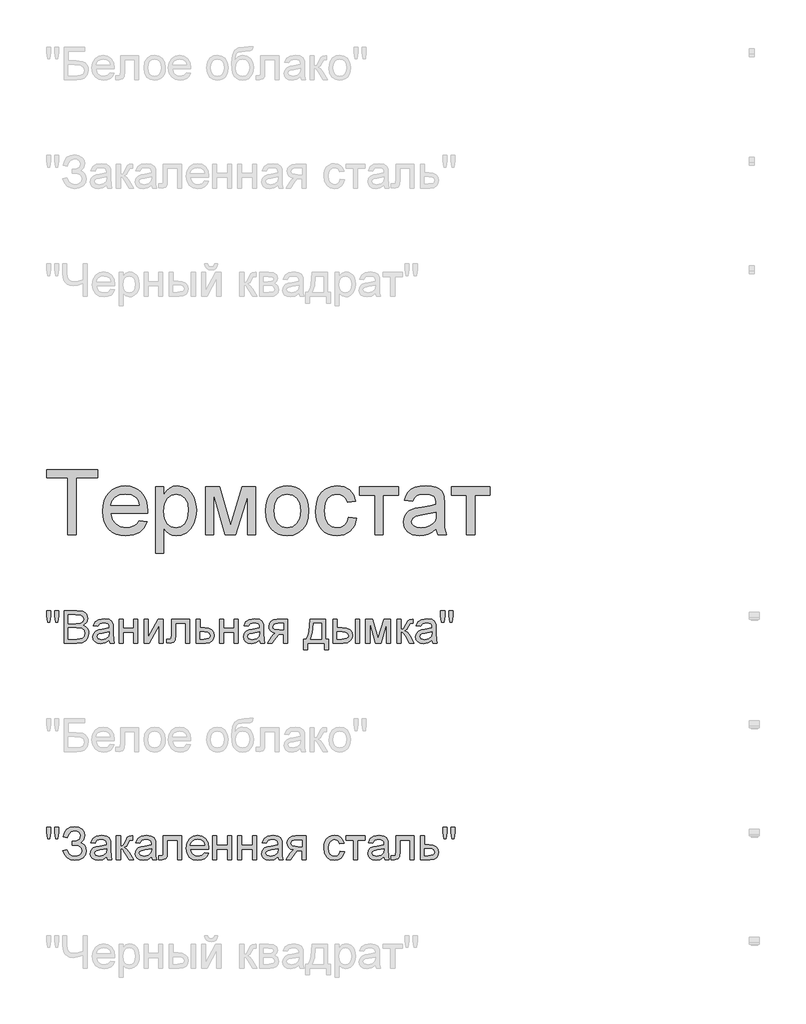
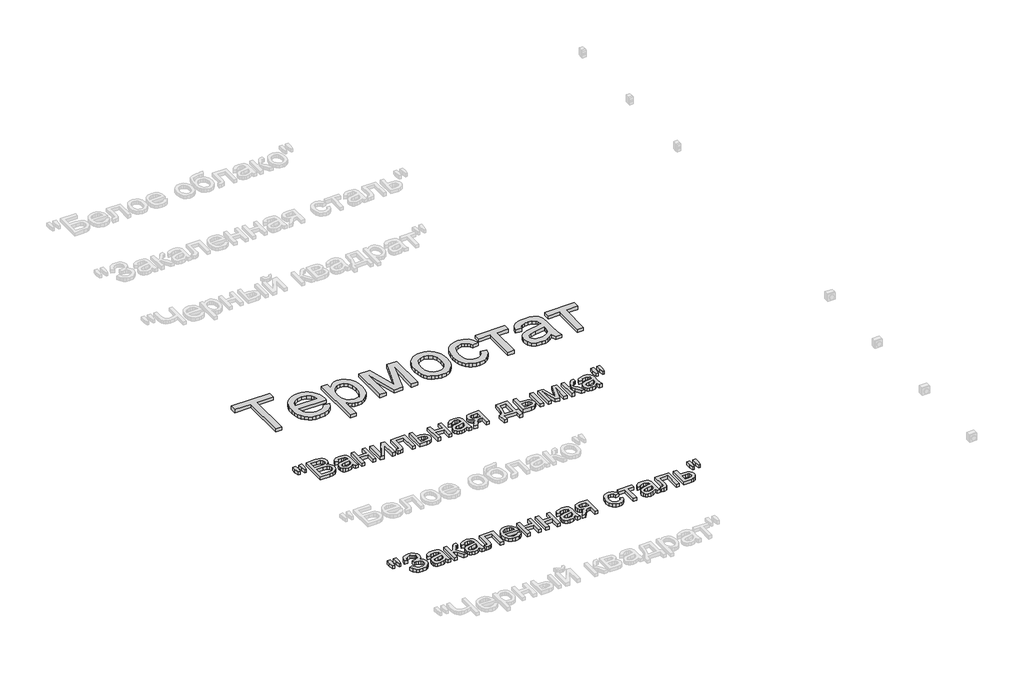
# One storey, part 12 of 168: 3 proxies.
"""IFC4 building model written with IfcOpenShell, lengths in millimetres."""

from ifc_helpers import new_model, si_unit, origin, origin_with_axes, place, context, project, spatial, polyline, outline, extrude, element, save

model = new_model("IFC4")

# Units and contexts
model_context = context("Model", 3, world=origin())
ifc_project = project(units=[si_unit("LENGTHUNIT", "METRE", prefix="MILLI")], contexts=[model_context])

# Site, building, storey
site = spatial("IfcSite", under=ifc_project)
building = spatial("IfcBuilding", under=site)
storey = spatial("IfcBuildingStorey", under=building, Name="Этаж 01", Elevation=0.0)

# Proxies
placement = place(None, origin())
element("IfcBuildingElementProxy", 1, Name="300 мм Arial 2", ObjectType="300 мм Arial 2", at=placement, inside=storey, context=model_context, shape_type="SweptSolid", body=[
    extrude(outline(polyline([(32974.4367343, -53165.7934012), (32974.4367343, -52902.095587), (32875.550054, -52902.095587), (32875.550054, -52864.4244707), (33110.9945309, -52864.4244707), (33110.9945309, -52902.095587), (33012.1078506, -52902.095587), (33012.1078506, -53165.7934012), (32974.4367343, -53165.7934012)])), origin_with_axes(), (0.0, 0.0, 1.0), 20.0),
    extrude(outline(polyline([(33303.6175436, -53099.8689477), (33340.5528959, -53104.5778372), (33327.2447647, -53132.4081101), (33306.0087765, -53153.211837), (33277.3231779, -53166.1796773), (33241.6662156, -53170.5022907), (33218.2919133, -53168.6375889), (33197.4651938, -53163.0434833), (33179.1860572, -53153.719974), (33163.4545034, -53140.6670609), (33150.8039613, -53124.2480276), (33141.7678598, -53104.8261575), (33136.3461989, -53082.4014507), (33134.5389786, -53056.973907), (33136.364593, -53030.6841399), (33141.8414362, -53007.5121728), (33150.9695082, -52987.4580055), (33163.748809, -52970.5216382), (33179.4389761, -52957.0663542), (33197.2996469, -52947.4554371), (33217.3308216, -52941.6888868), (33239.5325, -52939.7667034), (33261.0191078, -52941.6842883), (33280.4501749, -52947.437043), (33297.8257014, -52957.0249675), (33313.1456872, -52970.4480618), (33325.6513758, -52987.3476409), (33334.5840105, -53007.36502), (33339.9435913, -53030.5001989), (33341.7301183, -53056.7531778), (33341.5093891, -53066.9067209), (33172.2100949, -53066.9067209), (33178.7308032, -53095.1048758), (33193.8783444, -53115.8350262), (33215.739732, -53128.5821374), (33242.4019796, -53132.8311744), (33262.4515483, -53130.8630057), (33279.3373319, -53124.9584997), (33293.0593303, -53114.7497744), (33303.6175436, -53099.8689477)]), holes=[polyline([(33172.2100949, -53029.2356046), (33304.0590019, -53029.2356046), (33298.9638363, -53009.3331886), (33288.9758401, -52995.0961554), (33267.013285, -52981.8524036), (33239.3853472, -52977.4378197), (33213.9922925, -52980.9602898), (33192.9954276, -52991.5277001), (33178.3997094, -53007.9996164), (33172.2100949, -53029.2356046)])]), origin_with_axes(), (0.0, 0.0, 1.0), 20.0),
    extrude(outline(polyline([(33379.4012346, -53250.5534129), (33379.4012346, -52944.4755929), (33417.0723509, -52944.4755929), (33417.0723509, -52981.4109452), (33429.3596095, -52963.1915894), (33443.1183961, -52950.1777638), (33459.1580511, -52942.3694685), (33478.2879149, -52939.7667034), (33503.763743, -52943.4087351), (33526.0389978, -52954.3348304), (33544.1755802, -52971.8828015), (33557.235391, -52995.390461), (33565.1264598, -53023.1471576), (33567.7568161, -53053.4422399), (33564.786169, -53085.6595056), (33555.8742276, -53114.4738629), (33541.3061006, -53138.4229807), (33521.3668965, -53156.0445283), (33498.1443456, -53166.8878501), (33473.7261781, -53170.5022907), (33456.4081332, -53168.0834666), (33440.9478924, -53160.8269943), (33427.7133376, -53149.8733078), (33417.0723509, -53136.3628416), (33417.0723509, -53250.5534129), (33379.4012346, -53250.5534129)]), holes=[polyline([(33417.0723509, -53056.9003306), (33421.146644, -53090.6718978), (33433.3695233, -53114.2899219), (33451.4049381, -53128.1958613), (33472.9168377, -53132.8311744), (33494.7782253, -53128.0303144), (33513.2734926, -53113.6277343), (33525.882648, -53089.1451875), (33530.0856998, -53054.1044275), (33525.9838155, -53020.5168013), (33513.6781628, -52996.5676834), (33495.6703391, -52982.2202856), (33474.4619421, -52977.4378197), (33453.1707716, -52982.5237882), (33434.4731692, -52997.781694), (33421.4225555, -53022.7332903), (33417.0723509, -53056.9003306)])]), origin_with_axes(), (0.0, 0.0, 1.0), 20.0),
    extrude(outline(polyline([(33610.1368219, -52944.4755929), (33674.9576295, -52944.4755929), (33724.9160044, -53121.6475618), (33778.7739285, -52944.4755929), (33840.8724093, -52944.4755929), (33840.8724093, -53165.7934012), (33803.201293, -53165.7934012), (33803.201293, -52987.5913627), (33749.0490633, -53165.7934012), (33699.6057232, -53165.7934012), (33647.8079382, -52979.0565004), (33647.8079382, -53165.7934012), (33610.1368219, -53165.7934012), (33610.1368219, -52944.4755929)])), origin_with_axes(), (0.0, 0.0, 1.0), 20.0),
    extrude(outline(polyline([(33887.9613047, -53055.134497), (33889.9984512, -53026.4718911), (33896.1098909, -53001.7732136), (33906.2956236, -52981.0384647), (33920.5556495, -52964.2676442), (33934.9122443, -52953.5484826), (33950.7587613, -52945.8919386), (33968.0952003, -52941.2980122), (33986.9215614, -52939.7667034), (34007.7045949, -52941.6314052), (34026.496467, -52947.2255108), (34043.2971779, -52956.5490201), (34058.1067275, -52969.6019332), (34070.1939503, -52985.9427915), (34078.8276808, -53005.1301368), (34084.0079192, -53027.1639691), (34085.7346653, -53052.0442883), (34082.6812447, -53090.1016807), (34073.5209831, -53119.0723878), (34058.5205947, -53140.7682285), (34037.9467941, -53157.0010215), (34013.5102326, -53167.1269734), (33986.9215614, -53170.5022907), (33965.8350253, -53168.6444867), (33946.8684092, -53163.0710744), (33930.0217131, -53153.782054), (33915.2949369, -53140.7774255), (33903.3364728, -53124.277918), (33894.7947128, -53104.5042608), (33889.6696567, -53081.4564538), (33887.9613047, -53055.134497)]), holes=[polyline([(33925.632421, -53055.0609206), (33929.9918226, -53089.1543845), (33943.0700276, -53113.4437933), (33962.7517143, -53127.9843291), (33986.9215614, -53132.8311744), (34010.9810439, -53127.956738), (34030.6259424, -53113.3334287), (34043.7041474, -53088.7221232), (34048.063549, -53053.8836983), (34043.6765562, -53020.7835157), (34030.5155778, -52996.8252008), (34010.8430881, -52982.2846649), (33986.9215614, -52977.4378197), (33962.7517143, -52982.2662708), (33943.0700276, -52996.7516244), (33929.9918226, -53020.9858508), (33925.632421, -53055.0609206)])]), origin_with_axes(), (0.0, 0.0, 1.0), 20.0),
    extrude(outline(polyline([(34269.3813573, -53085.742279), (34307.0524736, -53090.4511686), (34296.5494426, -53123.9560213), (34276.8125736, -53149.2754996), (34249.6996706, -53165.1955929), (34217.0685376, -53170.5022907), (34195.9406147, -53168.6513844), (34176.9969913, -53163.0986656), (34160.2376671, -53153.8441341), (34145.6626423, -53140.8877901), (34133.8651266, -53124.4733553), (34125.4383296, -53104.8445516), (34120.3822515, -53082.001379), (34118.6968921, -53055.9438374), (34121.5755687, -53022.4205906), (34130.2115985, -52993.3671101), (34144.7429373, -52969.9054358), (34165.3075409, -52953.157608), (34189.9096493, -52943.1144295), (34216.5535028, -52939.7667034), (34248.3844924, -52944.3652283), (34273.8327294, -52958.1608031), (34292.0888734, -52980.4176638), (34302.3435841, -53010.4000464), (34264.6724678, -53015.108936), (34257.8390597, -52998.6738078), (34247.198073, -52986.8923869), (34233.3381188, -52979.8014615), (34216.8478084, -52977.4378197), (34192.5032174, -52982.0915269), (34173.1802156, -52996.0526486), (34160.5710602, -53020.0753429), (34156.3680084, -53054.9137678), (34160.4790897, -53090.2212423), (34172.8123336, -53114.3267101), (34191.7858475, -53128.2050583), (34215.8177388, -53132.8311744), (34235.3246816, -53129.9433008), (34251.3183513, -53121.2796798), (34262.9526194, -53106.6195823), (34269.3813573, -53085.742279)])), origin_with_axes(), (0.0, 0.0, 1.0), 20.0),
    extrude(outline(polyline([(34321.1791422, -52944.4755929), (34500.1169447, -52944.4755929), (34500.1169447, -52982.1467092), (34429.4836016, -52982.1467092), (34429.4836016, -53165.7934012), (34391.8124853, -53165.7934012), (34391.8124853, -52982.1467092), (34321.1791422, -52982.1467092), (34321.1791422, -52944.4755929)])), origin_with_axes(), (0.0, 0.0, 1.0), 20.0),
    extrude(outline(polyline([(34674.3458576, -53137.540064), (34656.347231, -53152.9727137), (34637.8151755, -53163.0710744), (34618.3266268, -53168.6444867), (34597.4585206, -53170.5022907), (34565.9770189, -53166.0325245), (34542.7544679, -53152.6232258), (34528.4346612, -53132.2609573), (34523.6613924, -53106.932282), (34525.4640141, -53091.3156913), (34530.8718795, -53077.1338404), (34539.2136037, -53064.9937345), (34549.8178022, -53055.502379), (34576.1949413, -53043.141544), (34608.789286, -53037.4761613), (34647.3065309, -53031.516473), (34674.1251284, -53024.526715), (34674.3458576, -53016.1390056), (34671.7522895, -52999.3267984), (34663.9715853, -52988.3271267), (34646.5707669, -52980.1601464), (34622.3273435, -52977.4378197), (34599.8865418, -52979.2496385), (34584.2147688, -52984.685095), (34573.5277968, -52994.7374705), (34566.0413982, -53010.4000464), (34528.3702819, -53005.6911569), (34534.9093844, -52985.0897652), (34544.6674543, -52968.9029574), (34558.5549996, -52956.5237282), (34577.4825283, -52947.3450725), (34600.6315028, -52941.6612956), (34627.1833858, -52939.7667034), (34652.6500169, -52941.4405664), (34672.8375414, -52946.4621557), (34688.058659, -52954.0129336), (34698.6260693, -52963.2743628), (34705.6342213, -52974.7246899), (34710.1775639, -52988.8421615), (34712.0169739, -53021.8043883), (34712.0169739, -53068.6725545), (34713.9299603, -53134.1187614), (34721.434753, -53165.7934012), (34683.7636367, -53165.7934012), (34674.3458576, -53137.540064)]), holes=[polyline([(34674.3458576, -53062.1978313), (34613.571752, -53073.749326), (34581.1613482, -53079.8561671), (34566.4828566, -53089.788981), (34561.3325087, -53104.2835316), (34564.1376089, -53115.4855383), (34572.5529095, -53124.6641941), (34586.3944696, -53130.7894293), (34605.4783481, -53132.8311744), (34625.7118578, -53130.5778972), (34643.5909228, -53123.8180655), (34658.0854734, -53113.8576605), (34668.1654401, -53102.0026632), (34672.6352063, -53089.788981), (34674.1251284, -53072.8664092), (34674.3458576, -53062.1978313)])]), origin_with_axes(), (0.0, 0.0, 1.0), 20.0),
    extrude(outline(polyline([(34744.9792007, -52944.4755929), (34923.9170031, -52944.4755929), (34923.9170031, -52982.1467092), (34853.28366, -52982.1467092), (34853.28366, -53165.7934012), (34815.6125437, -53165.7934012), (34815.6125437, -52982.1467092), (34744.9792007, -52982.1467092), (34744.9792007, -52944.4755929)])), origin_with_axes(), (0.0, 0.0, 1.0), 20.0),
])
element("IfcBuildingElementProxy", 2, Name="150", ObjectType="150", at=placement, inside=storey, context=model_context, shape_type="SweptSolid", body=[
    extrude(outline(polyline([(32880.1485789, -53569.2611657), (32875.550054, -53540.1616998), (32875.550054, -53515.108936), (32894.3856121, -53515.108936), (32894.3856121, -53540.1616998), (32890.2653338, -53569.2611657), (32880.1485789, -53569.2611657)])), origin_with_axes(), (0.0, 0.0, 1.0), 20.0),
    extrude(outline(polyline([(32917.7093306, -53569.2611657), (32913.2211703, -53540.1616998), (32913.2211703, -53515.108936), (32932.0567284, -53515.108936), (32932.0567284, -53540.1616998), (32927.6421445, -53569.2611657), (32917.7093306, -53569.2611657)])), origin_with_axes(), (0.0, 0.0, 1.0), 20.0),
    extrude(outline(polyline([(32957.9556209, -53665.7934012), (32957.9556209, -53515.108936), (33015.4555767, -53515.108936), (33043.6169435, -53519.541914), (33053.0807078, -53525.16591), (33060.2452096, -53533.1719419), (33066.2600803, -53552.4489585), (33061.2017028, -53570.0521119), (33045.9162059, -53583.3878343), (33056.5893823, -53588.9612465), (33064.4758526, -53597.4409265), (33069.3456905, -53608.2658542), (33070.9689698, -53620.8750096), (33066.5359918, -53641.1269134), (33055.5547142, -53655.5478876), (33039.1655713, -53663.1998331), (33015.0141183, -53665.7934012), (32957.9556209, -53665.7934012)]), holes=[polyline([(32976.791179, -53576.3245), (33011.1881456, -53576.3245), (33031.2745025, -53574.7058192), (33043.3594261, -53567.7344554), (33047.4245221, -53555.4655908), (33043.6353376, -53543.1783322), (33032.7828187, -53535.9126628), (33008.5761834, -53533.9444941), (32976.791179, -53533.9444941), (32976.791179, -53576.3245)]), polyline([(32976.791179, -53646.957843), (33015.4187885, -53646.957843), (33029.3983043, -53646.222079), (33041.2257105, -53642.1201948), (33049.061597, -53633.7508794), (33052.1334117, -53621.0589506), (33048.5281681, -53606.4172472), (33036.8479148, -53597.6800498), (33013.5793786, -53595.1600581), (32976.791179, -53595.1600581), (32976.791179, -53646.957843)])]), origin_with_axes(), (0.0, 0.0, 1.0), 20.0),
    extrude(outline(polyline([(33165.1467606, -53651.6667326), (33146.8814195, -53664.4322378), (33126.7030921, -53668.147846), (33110.9623412, -53665.9129628), (33099.3510657, -53659.2083135), (33092.1911624, -53649.0271793), (33089.804528, -53636.3628416), (33093.4097715, -53621.4636208), (33102.8827329, -53610.6478901), (33116.0713024, -53604.4674726), (33132.3684748, -53601.6347812), (33165.036396, -53595.1600581), (33165.1467606, -53590.9662034), (33163.8499765, -53582.5600998), (33159.9596244, -53577.060264), (33151.2592153, -53572.9767738), (33139.1375035, -53571.6156104), (33120.0812162, -53575.2392481), (33110.9945309, -53588.0967238), (33092.1589727, -53585.742279), (33100.3075589, -53567.3481793), (33116.7150959, -53556.5692368), (33141.5655247, -53552.7800523), (33164.3926025, -53556.1277784), (33177.2868664, -53564.533882), (33183.0626137, -53577.3177814), (33183.9823187, -53593.7988947), (33183.9823187, -53617.2329778), (33184.9388119, -53649.9560813), (33188.6912083, -53665.7934012), (33169.8556501, -53665.7934012), (33165.1467606, -53651.6667326)]), holes=[polyline([(33165.1467606, -53613.9956163), (33134.7597078, -53619.7713636), (33118.5545059, -53622.8247842), (33111.2152601, -53627.7911911), (33108.6400861, -53635.0384664), (33114.2502865, -53645.2287977), (33130.7130058, -53649.3122878), (33149.7692932, -53644.8057334), (33162.0565518, -53633.8980322), (33165.036396, -53619.3299052), (33165.1467606, -53613.9956163)])]), origin_with_axes(), (0.0, 0.0, 1.0), 20.0),
    extrude(outline(polyline([(33209.8812112, -53555.134497), (33228.7167693, -53555.134497), (33228.7167693, -53597.5145029), (33278.1601095, -53597.5145029), (33278.1601095, -53555.134497), (33296.9956676, -53555.134497), (33296.9956676, -53665.7934012), (33278.1601095, -53665.7934012), (33278.1601095, -53616.350061), (33228.7167693, -53616.350061), (33228.7167693, -53665.7934012), (33209.8812112, -53665.7934012), (33209.8812112, -53555.134497)])), origin_with_axes(), (0.0, 0.0, 1.0), 20.0),
    extrude(outline(polyline([(33325.2490049, -53555.134497), (33344.084563, -53555.134497), (33344.084563, -53639.5266267), (33390.364118, -53555.134497), (33414.7179061, -53555.134497), (33414.7179061, -53665.7934012), (33395.8823479, -53665.7934012), (33395.8823479, -53581.9163063), (33349.8970985, -53665.7934012), (33325.2490049, -53665.7934012), (33325.2490049, -53555.134497)])), origin_with_axes(), (0.0, 0.0, 1.0), 20.0),
    extrude(outline(polyline([(33452.3890224, -53555.134497), (33537.1490341, -53555.134497), (33537.1490341, -53665.6830366), (33518.3134759, -53665.6830366), (33518.3134759, -53573.9700552), (33471.2245806, -53573.9700552), (33471.2245806, -53626.7611215), (33469.9553877, -53651.1149096), (33462.9840239, -53661.3972113), (33446.5029105, -53665.7934012), (33431.1990195, -53664.836908), (33431.1990195, -53646.957843), (33439.6235172, -53646.957843), (33448.1399854, -53645.7990148), (33451.5428938, -53642.1201948), (33452.3890224, -53625.6942637), (33452.3890224, -53555.134497)])), origin_with_axes(), (0.0, 0.0, 1.0), 20.0),
    extrude(outline(polyline([(33565.4023713, -53555.134497), (33584.2379295, -53555.134497), (33584.2379295, -53595.1600581), (33605.9429672, -53595.1600581), (33624.7601312, -53597.5191014), (33638.6844648, -53604.5962313), (33647.2929034, -53615.8212307), (33650.162383, -53630.6238825), (33647.7205663, -53644.102159), (33640.395116, -53655.4743112), (33627.6985887, -53663.2136287), (33609.1435405, -53665.7934012), (33565.4023713, -53665.7934012), (33565.4023713, -53555.134497)]), holes=[polyline([(33584.2379295, -53646.957843), (33601.8226888, -53646.957843), (33624.539402, -53643.0031116), (33629.6299692, -53637.9401356), (33631.3268249, -53630.6606707), (33626.3052356, -53619.0723878), (33618.2348244, -53615.2648092), (33604.066769, -53613.9956163), (33584.2379295, -53613.9956163), (33584.2379295, -53646.957843)])]), origin_with_axes(), (0.0, 0.0, 1.0), 20.0),
    extrude(outline(polyline([(33673.7068307, -53555.134497), (33692.5423889, -53555.134497), (33692.5423889, -53597.5145029), (33741.985729, -53597.5145029), (33741.985729, -53555.134497), (33760.8212872, -53555.134497), (33760.8212872, -53665.7934012), (33741.985729, -53665.7934012), (33741.985729, -53616.350061), (33692.5423889, -53616.350061), (33692.5423889, -53665.7934012), (33673.7068307, -53665.7934012), (33673.7068307, -53555.134497)])), origin_with_axes(), (0.0, 0.0, 1.0), 20.0),
    extrude(outline(polyline([(33859.7079675, -53651.6667326), (33841.4426264, -53664.4322378), (33821.264299, -53668.147846), (33805.5235481, -53665.9129628), (33793.9122726, -53659.2083135), (33786.7523693, -53649.0271793), (33784.3657349, -53636.3628416), (33787.9709784, -53621.4636208), (33797.4439398, -53610.6478901), (33810.6325093, -53604.4674726), (33826.9296817, -53601.6347812), (33859.5976029, -53595.1600581), (33859.7079675, -53590.9662034), (33858.4111834, -53582.5600998), (33854.5208313, -53577.060264), (33845.8204221, -53572.9767738), (33833.6987104, -53571.6156104), (33814.6424231, -53575.2392481), (33805.5557378, -53588.0967238), (33786.7201796, -53585.742279), (33794.8687658, -53567.3481793), (33811.2763028, -53556.5692368), (33836.1267316, -53552.7800523), (33858.9538094, -53556.1277784), (33871.8480733, -53564.533882), (33877.6238206, -53577.3177814), (33878.5435256, -53593.7988947), (33878.5435256, -53617.2329778), (33879.5000188, -53649.9560813), (33883.2524152, -53665.7934012), (33864.416857, -53665.7934012), (33859.7079675, -53651.6667326)]), holes=[polyline([(33859.7079675, -53613.9956163), (33829.3209147, -53619.7713636), (33813.1157128, -53622.8247842), (33805.776467, -53627.7911911), (33803.201293, -53635.0384664), (33808.8114934, -53645.2287977), (33825.2742127, -53649.3122878), (33844.3305001, -53644.8057334), (33856.6177587, -53633.8980322), (33859.5976029, -53619.3299052), (33859.7079675, -53613.9956163)])]), origin_with_axes(), (0.0, 0.0, 1.0), 20.0),
    extrude(outline(polyline([(33989.2024298, -53555.134497), (33989.2024298, -53665.7934012), (33970.3668716, -53665.7934012), (33970.3668716, -53623.4133953), (33960.1029639, -53623.4133953), (33946.1234481, -53625.8046283), (33932.9900609, -53641.8810715), (33917.9804755, -53665.7934012), (33896.2018614, -53665.7934012), (33915.1109959, -53635.5535012), (33923.4619172, -53624.7009823), (33931.1506509, -53619.8817282), (33918.2747811, -53615.9361938), (33909.224884, -53608.4405981), (33903.872201, -53598.4709961), (33902.0879733, -53587.1034424), (33904.5251915, -53574.2091785), (33911.8368462, -53564.0004531), (33923.7654199, -53557.3509861), (33940.0533952, -53555.134497), (33989.2024298, -53555.134497)]), holes=[polyline([(33970.3668716, -53573.9700552), (33945.5348369, -53573.9700552), (33932.7095509, -53575.0599056), (33925.4300859, -53578.3294568), (33920.9235315, -53588.5381822), (33922.583599, -53595.7164796), (33927.5638015, -53600.6966821), (33951.0898551, -53604.5778372), (33970.3668716, -53604.5778372), (33970.3668716, -53573.9700552)])]), origin_with_axes(), (0.0, 0.0, 1.0), 20.0),
    extrude(outline(polyline([(34092.7979996, -53555.134497), (34163.4313427, -53555.134497), (34163.4313427, -53646.957843), (34177.5580113, -53646.957843), (34177.5580113, -53696.4011832), (34158.7224531, -53696.4011832), (34158.7224531, -53665.7934012), (34081.0257758, -53665.7934012), (34081.0257758, -53696.4011832), (34062.1902176, -53696.4011832), (34062.1902176, -53646.957843), (34073.9624415, -53646.957843), (34082.5202964, -53631.4930037), (34088.5121744, -53611.0341662), (34092.7979996, -53555.134497)]), holes=[polyline([(34109.279113, -53573.9700552), (34104.864529, -53616.8834899), (34095.1524444, -53646.957843), (34144.5957845, -53646.957843), (34144.5957845, -53573.9700552), (34109.279113, -53573.9700552)])]), origin_with_axes(), (0.0, 0.0, 1.0), 20.0),
    extrude(outline(polyline([(34302.3435841, -53555.134497), (34321.1791422, -53555.134497), (34321.1791422, -53665.7934012), (34302.3435841, -53665.7934012), (34302.3435841, -53555.134497)])), origin_with_axes(), (0.0, 0.0, 1.0), 20.0),
    extrude(outline(polyline([(34198.7480142, -53555.134497), (34217.5835724, -53555.134497), (34217.5835724, -53595.1600581), (34240.8705027, -53595.1600581), (34260.9982463, -53597.5191014), (34275.9112627, -53604.5962313), (34285.1405023, -53615.8212307), (34288.2169154, -53630.6238825), (34285.637143, -53644.102159), (34277.8978255, -53655.4743112), (34264.4931253, -53663.2136287), (34244.9172046, -53665.7934012), (34198.7480142, -53665.7934012), (34198.7480142, -53555.134497)]), holes=[polyline([(34217.5835724, -53646.957843), (34236.9341653, -53646.957843), (34261.9133528, -53643.0031116), (34267.5143562, -53637.9401356), (34269.3813573, -53630.6606707), (34263.8447333, -53619.0723878), (34254.9649816, -53615.2648092), (34239.3989747, -53613.9956163), (34217.5835724, -53613.9956163), (34217.5835724, -53646.957843)])]), origin_with_axes(), (0.0, 0.0, 1.0), 20.0),
    extrude(outline(polyline([(34349.4324794, -53555.134497), (34381.8428832, -53555.134497), (34406.8220707, -53643.7204815), (34433.7510327, -53555.134497), (34464.8002731, -53555.134497), (34464.8002731, -53665.7934012), (34445.964715, -53665.7934012), (34445.964715, -53576.692382), (34418.8886001, -53665.7934012), (34394.1669301, -53665.7934012), (34368.2680376, -53572.4249508), (34368.2680376, -53665.7934012), (34349.4324794, -53665.7934012), (34349.4324794, -53555.134497)])), origin_with_axes(), (0.0, 0.0, 1.0), 20.0),
    extrude(outline(polyline([(34493.0536104, -53555.134497), (34511.8891685, -53555.134497), (34511.8891685, -53602.2233924), (34524.5075209, -53598.8388781), (34534.845005, -53579.1204031), (34543.4350496, -53562.1058608), (34551.0134187, -53556.5692368), (34564.7905994, -53555.134497), (34568.395843, -53555.134497), (34568.395843, -53574.0804198), (34563.3190714, -53573.9700552), (34554.1220216, -53575.956618), (34547.6472984, -53588.3542412), (34540.0505352, -53601.7635399), (34529.4003515, -53608.3302335), (34541.2829399, -53615.6602823), (34552.9447992, -53631.102129), (34573.1047325, -53665.7934012), (34551.6940004, -53665.7934012), (34531.9387372, -53631.837893), (34522.0059234, -53617.4721011), (34511.8891685, -53613.9956163), (34511.8891685, -53665.7934012), (34493.0536104, -53665.7934012), (34493.0536104, -53555.134497)])), origin_with_axes(), (0.0, 0.0, 1.0), 20.0),
    extrude(outline(polyline([(34655.5102994, -53651.6667326), (34637.2449584, -53664.4322378), (34617.0666309, -53668.147846), (34601.3258801, -53665.9129628), (34589.7146046, -53659.2083135), (34582.5547013, -53649.0271793), (34580.1680668, -53636.3628416), (34583.7733104, -53621.4636208), (34593.2462717, -53610.6478901), (34606.4348413, -53604.4674726), (34622.7320137, -53601.6347812), (34655.3999348, -53595.1600581), (34655.5102994, -53590.9662034), (34654.2135154, -53582.5600998), (34650.3231633, -53577.060264), (34641.6227541, -53572.9767738), (34629.5010424, -53571.6156104), (34610.444755, -53575.2392481), (34601.3580697, -53588.0967238), (34582.5225116, -53585.742279), (34590.6710978, -53567.3481793), (34607.0786348, -53556.5692368), (34631.9290635, -53552.7800523), (34654.7561413, -53556.1277784), (34667.6504053, -53564.533882), (34673.4261526, -53577.3177814), (34674.3458576, -53593.7988947), (34674.3458576, -53617.2329778), (34675.3023508, -53649.9560813), (34679.0547471, -53665.7934012), (34660.219189, -53665.7934012), (34655.5102994, -53651.6667326)]), holes=[polyline([(34655.5102994, -53613.9956163), (34625.1232466, -53619.7713636), (34608.9180447, -53622.8247842), (34601.5787989, -53627.7911911), (34599.003625, -53635.0384664), (34604.6138254, -53645.2287977), (34621.0765447, -53649.3122878), (34640.132832, -53644.8057334), (34652.4200907, -53633.8980322), (34655.3999348, -53619.3299052), (34655.5102994, -53613.9956163)])]), origin_with_axes(), (0.0, 0.0, 1.0), 20.0),
    extrude(outline(polyline([(34700.1343854, -53569.2611657), (34695.5358605, -53540.1616998), (34695.5358605, -53515.108936), (34714.3714187, -53515.108936), (34714.3714187, -53540.1616998), (34710.2511403, -53569.2611657), (34700.1343854, -53569.2611657)])), origin_with_axes(), (0.0, 0.0, 1.0), 20.0),
    extrude(outline(polyline([(34737.6951372, -53569.2611657), (34733.2069768, -53540.1616998), (34733.2069768, -53515.108936), (34752.042535, -53515.108936), (34752.042535, -53540.1616998), (34747.627951, -53569.2611657), (34737.6951372, -53569.2611657)])), origin_with_axes(), (0.0, 0.0, 1.0), 20.0),
])
element("IfcBuildingElementProxy", 3, Name="150", ObjectType="150", at=placement, inside=storey, context=model_context, shape_type="SweptSolid", body=[
    extrude(outline(polyline([(32880.1485789, -54569.2611657), (32875.550054, -54540.1616998), (32875.550054, -54515.108936), (32894.3856121, -54515.108936), (32894.3856121, -54540.1616998), (32890.2653338, -54569.2611657), (32880.1485789, -54569.2611657)])), origin_with_axes(), (0.0, 0.0, 1.0), 20.0),
    extrude(outline(polyline([(32917.7093306, -54569.2611657), (32913.2211703, -54540.1616998), (32913.2211703, -54515.108936), (32932.0567284, -54515.108936), (32932.0567284, -54540.1616998), (32927.6421445, -54569.2611657), (32917.7093306, -54569.2611657)])), origin_with_axes(), (0.0, 0.0, 1.0), 20.0),
    extrude(outline(polyline([(32950.8922866, -54623.4133953), (32969.7278447, -54618.7045058), (32981.2977335, -54639.1035624), (32992.2284273, -54646.7601065), (33006.2217387, -54649.3122878), (33020.398991, -54647.3947029), (33031.2193202, -54641.6419482), (33038.0757209, -54633.1760638), (33040.3611878, -54623.1190897), (33037.8641888, -54612.5838691), (33030.3731916, -54604.4490785), (33018.5779752, -54599.2481468), (33003.1683181, -54597.5145029), (32993.2722924, -54597.5145029), (32993.2722924, -54578.6789447), (33014.591054, -54577.1522345), (33027.6324708, -54569.3531362), (33033.2978535, -54555.0977088), (33031.4124583, -54546.2271542), (33025.7562726, -54538.5982014), (33016.8811195, -54533.3420874), (33005.3388219, -54531.5900493), (32986.1169876, -54536.9795206), (32975.117316, -54551.2717361), (32972.0822895, -54564.5522761), (32953.2467313, -54559.8433866), (32959.0983543, -54539.2419948), (32969.7002536, -54524.526715), (32985.0524291, -54515.6975472), (33005.1548809, -54512.7544912), (33024.5468605, -54515.8125103), (33039.4598769, -54524.9865675), (33048.965028, -54538.253312), (33052.1334117, -54553.5893927), (33047.2037929, -54572.2318128), (33032.4149367, -54586.1469492), (33042.8903765, -54590.9708019), (33051.5080123, -54599.1147896), (33057.2745625, -54609.8799364), (33059.196746, -54622.5672668), (33055.508729, -54640.404945), (33044.444678, -54655.069641), (33027.2921799, -54664.8782947), (33005.3388219, -54668.147846), (32986.2365493, -54665.3519428), (32970.7947025, -54656.9642333), (32959.0132816, -54642.9847175), (32950.8922866, -54623.4133953)])), origin_with_axes(), (0.0, 0.0, 1.0), 20.0),
    extrude(outline(polyline([(33153.3745367, -54651.6667326), (33135.1091957, -54664.4322378), (33114.9308682, -54668.147846), (33099.1901174, -54665.9129628), (33087.5788419, -54659.2083135), (33080.4189386, -54649.0271793), (33078.0323041, -54636.3628416), (33081.6375477, -54621.4636208), (33091.110509, -54610.6478901), (33104.2990786, -54604.4674726), (33120.596251, -54601.6347812), (33153.2641721, -54595.1600581), (33153.3745367, -54590.9662034), (33152.0777527, -54582.5600998), (33148.1874006, -54577.060264), (33139.4869914, -54572.9767738), (33127.3652797, -54571.6156104), (33108.3089923, -54575.2392481), (33099.222307, -54588.0967238), (33080.3867489, -54585.742279), (33088.5353351, -54567.3481793), (33104.9428721, -54556.5692368), (33129.7933008, -54552.7800523), (33152.6203786, -54556.1277784), (33165.5146426, -54564.533882), (33171.2903899, -54577.3177814), (33172.2100949, -54593.7988947), (33172.2100949, -54617.2329778), (33173.1665881, -54649.9560813), (33176.9189844, -54665.7934012), (33158.0834263, -54665.7934012), (33153.3745367, -54651.6667326)]), holes=[polyline([(33153.3745367, -54613.9956163), (33122.9874839, -54619.7713636), (33106.782282, -54622.8247842), (33099.4430362, -54627.7911911), (33096.8678623, -54635.0384664), (33102.4780627, -54645.2287977), (33118.940782, -54649.3122878), (33137.9970693, -54644.8057334), (33150.284328, -54633.8980322), (33153.2641721, -54619.3299052), (33153.3745367, -54613.9956163)])]), origin_with_axes(), (0.0, 0.0, 1.0), 20.0),
    extrude(outline(polyline([(33198.1089873, -54555.134497), (33216.9445455, -54555.134497), (33216.9445455, -54602.2233924), (33229.5628979, -54598.8388781), (33239.900382, -54579.1204031), (33248.4904266, -54562.1058608), (33256.0687957, -54556.5692368), (33269.8459764, -54555.134497), (33273.4512199, -54555.134497), (33273.4512199, -54574.0804198), (33268.3744484, -54573.9700552), (33259.1773985, -54575.956618), (33252.7026754, -54588.3542412), (33245.1059122, -54601.7635399), (33234.4557285, -54608.3302335), (33246.3383169, -54615.6602823), (33258.0001762, -54631.102129), (33278.1601095, -54665.7934012), (33256.7493774, -54665.7934012), (33236.9941142, -54631.837893), (33227.0613004, -54617.4721011), (33216.9445455, -54613.9956163), (33216.9445455, -54665.7934012), (33198.1089873, -54665.7934012), (33198.1089873, -54555.134497)])), origin_with_axes(), (0.0, 0.0, 1.0), 20.0),
    extrude(outline(polyline([(33360.5656764, -54651.6667326), (33342.3003353, -54664.4322378), (33322.1220079, -54668.147846), (33306.381257, -54665.9129628), (33294.7699816, -54659.2083135), (33287.6100782, -54649.0271793), (33285.2234438, -54636.3628416), (33288.8286873, -54621.4636208), (33298.3016487, -54610.6478901), (33311.4902183, -54604.4674726), (33327.7873906, -54601.6347812), (33360.4553118, -54595.1600581), (33360.5656764, -54590.9662034), (33359.2688924, -54582.5600998), (33355.3785403, -54577.060264), (33346.6781311, -54572.9767738), (33334.5564193, -54571.6156104), (33315.500132, -54575.2392481), (33306.4134467, -54588.0967238), (33287.5778886, -54585.742279), (33295.7264748, -54567.3481793), (33312.1340117, -54556.5692368), (33336.9844405, -54552.7800523), (33359.8115183, -54556.1277784), (33372.7057822, -54564.533882), (33378.4815296, -54577.3177814), (33379.4012346, -54593.7988947), (33379.4012346, -54617.2329778), (33380.3577277, -54649.9560813), (33384.1101241, -54665.7934012), (33365.2745659, -54665.7934012), (33360.5656764, -54651.6667326)]), holes=[polyline([(33360.5656764, -54613.9956163), (33330.1786236, -54619.7713636), (33313.9734217, -54622.8247842), (33306.6341759, -54627.7911911), (33304.0590019, -54635.0384664), (33309.6692024, -54645.2287977), (33326.1319217, -54649.3122878), (33345.188209, -54644.8057334), (33357.4754676, -54633.8980322), (33360.4553118, -54619.3299052), (33360.5656764, -54613.9956163)])]), origin_with_axes(), (0.0, 0.0, 1.0), 20.0),
    extrude(outline(polyline([(33414.7179061, -54555.134497), (33499.4779178, -54555.134497), (33499.4779178, -54665.6830366), (33480.6423596, -54665.6830366), (33480.6423596, -54573.9700552), (33433.5534643, -54573.9700552), (33433.5534643, -54626.7611215), (33432.2842714, -54651.1149096), (33425.3129076, -54661.3972113), (33408.8317942, -54665.7934012), (33393.5279032, -54664.836908), (33393.5279032, -54646.957843), (33401.9524009, -54646.957843), (33410.4688691, -54645.7990148), (33413.8717775, -54642.1201948), (33414.7179061, -54625.6942637), (33414.7179061, -54555.134497)])), origin_with_axes(), (0.0, 0.0, 1.0), 20.0),
    extrude(outline(polyline([(33605.2072032, -54632.8311744), (33623.6748794, -54635.1856192), (33617.0208138, -54649.1007557), (33606.4028197, -54659.5026191), (33592.0600204, -54665.9865392), (33574.2315392, -54668.147846), (33552.1310283, -54664.4184422), (33535.1256831, -54653.2302311), (33524.2823613, -54635.3097794), (33520.6679207, -54611.3836541), (33524.3191495, -54586.652787), (33535.2728359, -54568.1575197), (33552.0482549, -54556.6244191), (33573.1646814, -54552.7800523), (33593.6235189, -54556.6152221), (33609.971275, -54568.1207315), (33620.6904367, -54586.5792106), (33624.2634906, -54611.2732895), (33624.153126, -54616.350061), (33539.5034789, -54616.350061), (33542.763833, -54630.4491385), (33550.3376036, -54640.8142137), (33561.2682974, -54647.1877693), (33574.5994212, -54649.3122878), (33593.0670974, -54645.3759505), (33605.2072032, -54632.8311744)]), holes=[polyline([(33539.5034789, -54597.5145029), (33605.4279324, -54597.5145029), (33602.8803496, -54587.5632949), (33597.8863515, -54580.4447783), (33586.9050739, -54573.8229024), (33573.091105, -54571.6156104), (33560.3945777, -54573.3768455), (33549.8961452, -54578.6605506), (33542.5982861, -54586.8965088), (33539.5034789, -54597.5145029)])]), origin_with_axes(), (0.0, 0.0, 1.0), 20.0),
    extrude(outline(polyline([(33643.0990487, -54555.134497), (33661.9346069, -54555.134497), (33661.9346069, -54597.5145029), (33711.377947, -54597.5145029), (33711.377947, -54555.134497), (33730.2135052, -54555.134497), (33730.2135052, -54665.7934012), (33711.377947, -54665.7934012), (33711.377947, -54616.350061), (33661.9346069, -54616.350061), (33661.9346069, -54665.7934012), (33643.0990487, -54665.7934012), (33643.0990487, -54555.134497)])), origin_with_axes(), (0.0, 0.0, 1.0), 20.0),
    extrude(outline(polyline([(33758.4668424, -54555.134497), (33777.3024005, -54555.134497), (33777.3024005, -54597.5145029), (33826.7457407, -54597.5145029), (33826.7457407, -54555.134497), (33845.5812988, -54555.134497), (33845.5812988, -54665.7934012), (33826.7457407, -54665.7934012), (33826.7457407, -54616.350061), (33777.3024005, -54616.350061), (33777.3024005, -54665.7934012), (33758.4668424, -54665.7934012), (33758.4668424, -54555.134497)])), origin_with_axes(), (0.0, 0.0, 1.0), 20.0),
    extrude(outline(polyline([(33944.4679792, -54651.6667326), (33926.2026381, -54664.4322378), (33906.0243107, -54668.147846), (33890.2835598, -54665.9129628), (33878.6722843, -54659.2083135), (33871.512381, -54649.0271793), (33869.1257465, -54636.3628416), (33872.7309901, -54621.4636208), (33882.2039515, -54610.6478901), (33895.392521, -54604.4674726), (33911.6896934, -54601.6347812), (33944.3576146, -54595.1600581), (33944.4679792, -54590.9662034), (33943.1711951, -54582.5600998), (33939.280843, -54577.060264), (33930.5804338, -54572.9767738), (33918.4587221, -54571.6156104), (33899.4024347, -54575.2392481), (33890.3157495, -54588.0967238), (33871.4801913, -54585.742279), (33879.6287775, -54567.3481793), (33896.0363145, -54556.5692368), (33920.8867433, -54552.7800523), (33943.7138211, -54556.1277784), (33956.608085, -54564.533882), (33962.3838323, -54577.3177814), (33963.3035373, -54593.7988947), (33963.3035373, -54617.2329778), (33964.2600305, -54649.9560813), (33968.0124268, -54665.7934012), (33949.1768687, -54665.7934012), (33944.4679792, -54651.6667326)]), holes=[polyline([(33944.4679792, -54613.9956163), (33914.0809264, -54619.7713636), (33897.8757245, -54622.8247842), (33890.5364787, -54627.7911911), (33887.9613047, -54635.0384664), (33893.5715051, -54645.2287977), (33910.0342244, -54649.3122878), (33929.0905118, -54644.8057334), (33941.3777704, -54633.8980322), (33944.3576146, -54619.3299052), (33944.4679792, -54613.9956163)])]), origin_with_axes(), (0.0, 0.0, 1.0), 20.0),
    extrude(outline(polyline([(34073.9624415, -54555.134497), (34073.9624415, -54665.7934012), (34055.1268833, -54665.7934012), (34055.1268833, -54623.4133953), (34044.8629756, -54623.4133953), (34030.8834598, -54625.8046283), (34017.7500726, -54641.8810715), (34002.7404872, -54665.7934012), (33980.9618731, -54665.7934012), (33999.8710076, -54635.5535012), (34008.2219289, -54624.7009823), (34015.9106626, -54619.8817282), (34003.0347928, -54615.9361938), (33993.9848957, -54608.4405981), (33988.6322127, -54598.4709961), (33986.847985, -54587.1034424), (33989.2852032, -54574.2091785), (33996.5968579, -54564.0004531), (34008.5254316, -54557.3509861), (34024.8134069, -54555.134497), (34073.9624415, -54555.134497)]), holes=[polyline([(34055.1268833, -54573.9700552), (34030.2948486, -54573.9700552), (34017.4695626, -54575.0599056), (34010.1900976, -54578.3294568), (34005.6835431, -54588.5381822), (34007.3436107, -54595.7164796), (34012.3238132, -54600.6966821), (34035.8498668, -54604.5778372), (34055.1268833, -54604.5778372), (34055.1268833, -54573.9700552)])]), origin_with_axes(), (0.0, 0.0, 1.0), 20.0),
    extrude(outline(polyline([(34231.710241, -54625.7678401), (34250.5457991, -54628.1222849), (34245.2942837, -54644.8747112), (34235.4258491, -54657.5344504), (34221.8693976, -54665.4944971), (34205.5538311, -54668.147846), (34185.518058, -54664.4460334), (34169.8508835, -54653.3405957), (34159.7387272, -54635.3189764), (34156.3680084, -54610.8686193), (34157.8073467, -54594.1069959), (34162.1253616, -54579.5802556), (34169.391031, -54567.8494185), (34179.6733328, -54559.4755046), (34191.974387, -54554.4539153), (34205.2963137, -54552.7800523), (34221.2118085, -54555.0793147), (34233.9359271, -54561.9771022), (34243.0639991, -54573.1055325), (34248.1913544, -54588.0967238), (34229.3557962, -54590.4511686), (34220.6185988, -54576.3428941), (34205.4434665, -54571.6156104), (34193.271171, -54573.942464), (34183.6096701, -54580.9230249), (34177.3050924, -54592.934372), (34175.2035665, -54610.3535845), (34177.2591072, -54628.0073218), (34183.4257291, -54640.0600556), (34192.9124861, -54646.9992298), (34204.9284317, -54649.3122878), (34214.6819031, -54647.868351), (34222.678738, -54643.5365405), (34228.4958721, -54636.2064917), (34231.710241, -54625.7678401)])), origin_with_axes(), (0.0, 0.0, 1.0), 20.0),
    extrude(outline(polyline([(34257.6091334, -54555.134497), (34347.0780347, -54555.134497), (34347.0780347, -54573.9700552), (34311.7613631, -54573.9700552), (34311.7613631, -54665.7934012), (34292.925805, -54665.7934012), (34292.925805, -54573.9700552), (34257.6091334, -54573.9700552), (34257.6091334, -54555.134497)])), origin_with_axes(), (0.0, 0.0, 1.0), 20.0),
    extrude(outline(polyline([(34434.1924911, -54651.6667326), (34415.9271501, -54664.4322378), (34395.7488226, -54668.147846), (34380.0080718, -54665.9129628), (34368.3967963, -54659.2083135), (34361.236893, -54649.0271793), (34358.8502585, -54636.3628416), (34362.4555021, -54621.4636208), (34371.9284634, -54610.6478901), (34385.117033, -54604.4674726), (34401.4142054, -54601.6347812), (34434.0821265, -54595.1600581), (34434.1924911, -54590.9662034), (34432.8957071, -54582.5600998), (34429.005355, -54577.060264), (34420.3049458, -54572.9767738), (34408.1832341, -54571.6156104), (34389.1269467, -54575.2392481), (34380.0402614, -54588.0967238), (34361.2047033, -54585.742279), (34369.3532895, -54567.3481793), (34385.7608265, -54556.5692368), (34410.6112552, -54552.7800523), (34433.438333, -54556.1277784), (34446.332597, -54564.533882), (34452.1083443, -54577.3177814), (34453.0280493, -54593.7988947), (34453.0280493, -54617.2329778), (34453.9845425, -54649.9560813), (34457.7369388, -54665.7934012), (34438.9013807, -54665.7934012), (34434.1924911, -54651.6667326)]), holes=[polyline([(34434.1924911, -54613.9956163), (34403.8054383, -54619.7713636), (34387.6002364, -54622.8247842), (34380.2609906, -54627.7911911), (34377.6858167, -54635.0384664), (34383.2960171, -54645.2287977), (34399.7587364, -54649.3122878), (34418.8150237, -54644.8057334), (34431.1022824, -54633.8980322), (34434.0821265, -54619.3299052), (34434.1924911, -54613.9956163)])]), origin_with_axes(), (0.0, 0.0, 1.0), 20.0),
    extrude(outline(polyline([(34488.3447208, -54555.134497), (34573.1047325, -54555.134497), (34573.1047325, -54665.6830366), (34554.2691744, -54665.6830366), (34554.2691744, -54573.9700552), (34507.180279, -54573.9700552), (34507.180279, -54626.7611215), (34505.9110861, -54651.1149096), (34498.9397223, -54661.3972113), (34482.4586089, -54665.7934012), (34467.1547179, -54664.836908), (34467.1547179, -54646.957843), (34475.5792156, -54646.957843), (34484.0956838, -54645.7990148), (34487.4985922, -54642.1201948), (34488.3447208, -54625.6942637), (34488.3447208, -54555.134497)])), origin_with_axes(), (0.0, 0.0, 1.0), 20.0),
    extrude(outline(polyline([(34601.3580697, -54555.134497), (34620.1936279, -54555.134497), (34620.1936279, -54595.1600581), (34641.8986656, -54595.1600581), (34660.7158297, -54597.5191014), (34674.6401632, -54604.5962313), (34683.2486019, -54615.8212307), (34686.1180814, -54630.6238825), (34683.6762647, -54644.102159), (34676.3508145, -54655.4743112), (34663.6542871, -54663.2136287), (34645.099239, -54665.7934012), (34601.3580697, -54665.7934012), (34601.3580697, -54555.134497)]), holes=[polyline([(34620.1936279, -54646.957843), (34637.7783873, -54646.957843), (34660.4951005, -54643.0031116), (34665.5856676, -54637.9401356), (34667.2825233, -54630.6606707), (34662.260934, -54619.0723878), (34654.1905228, -54615.2648092), (34640.0224674, -54613.9956163), (34620.1936279, -54613.9956163), (34620.1936279, -54646.957843)])]), origin_with_axes(), (0.0, 0.0, 1.0), 20.0),
    extrude(outline(polyline([(34709.5521645, -54569.2611657), (34704.9536396, -54540.1616998), (34704.9536396, -54515.108936), (34723.7891977, -54515.108936), (34723.7891977, -54540.1616998), (34719.6689194, -54569.2611657), (34709.5521645, -54569.2611657)])), origin_with_axes(), (0.0, 0.0, 1.0), 20.0),
    extrude(outline(polyline([(34747.1129162, -54569.2611657), (34742.6247559, -54540.1616998), (34742.6247559, -54515.108936), (34761.460314, -54515.108936), (34761.460314, -54540.1616998), (34757.0457301, -54569.2611657), (34747.1129162, -54569.2611657)])), origin_with_axes(), (0.0, 0.0, 1.0), 20.0),
])

save(model, "model.ifc")
